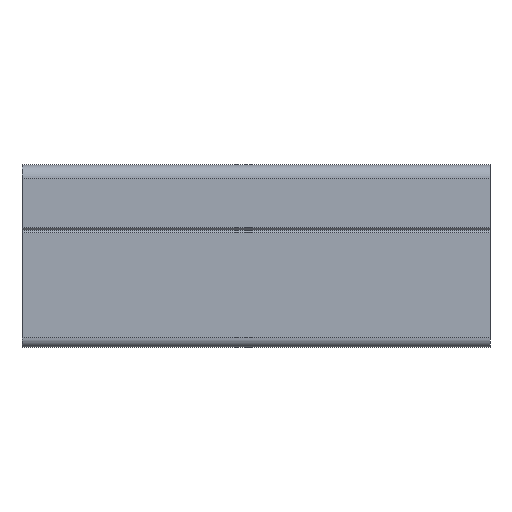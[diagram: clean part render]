
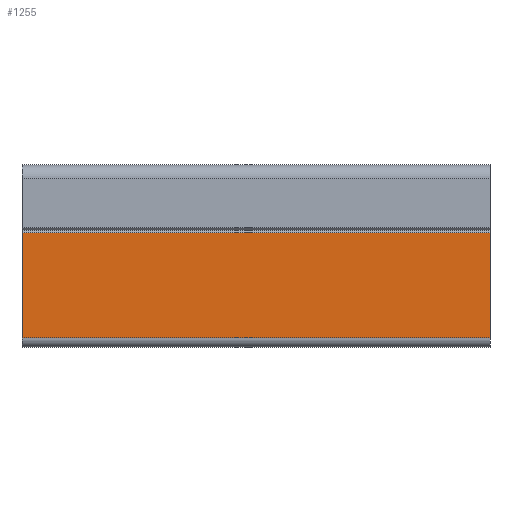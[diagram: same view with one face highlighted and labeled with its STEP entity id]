
A CAD part, front view. The second image highlights one B-rep face of the part: STEP entity #1255.
In plain terms, the highlighted planar face has unit normal (0, -1, 0).
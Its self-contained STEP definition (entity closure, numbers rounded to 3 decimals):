
#75 = VERTEX_POINT ( 'NONE', #1171 ) ;
#125 = EDGE_CURVE ( 'NONE', #1456, #75, #1300, .T. ) ;
#221 = CARTESIAN_POINT ( 'NONE',  ( 100., 0., 24.5 ) ) ;
#227 = PLANE ( 'NONE',  #1928 ) ;
#232 = CARTESIAN_POINT ( 'NONE',  ( 100., 0., 24.5 ) ) ;
#419 = DIRECTION ( 'NONE',  ( 0., 1., 0. ) ) ;
#427 = CARTESIAN_POINT ( 'NONE',  ( 0., 0., 24.5 ) ) ;
#448 = DIRECTION ( 'NONE',  ( -1., 0., 0. ) ) ;
#451 = LINE ( 'NONE', #1065, #790 ) ;
#557 = VERTEX_POINT ( 'NONE', #427 ) ;
#790 = VECTOR ( 'NONE', #2084, 1000. ) ;
#860 = EDGE_CURVE ( 'NONE', #2014, #557, #1252, .T. ) ;
#862 = ORIENTED_EDGE ( 'NONE', *, *, #1168, .T. ) ;
#921 = EDGE_LOOP ( 'NONE', ( #862, #944, #2114, #1896 ) ) ;
#944 = ORIENTED_EDGE ( 'NONE', *, *, #125, .F. ) ;
#1065 = CARTESIAN_POINT ( 'NONE',  ( 0., 0., 24.5 ) ) ;
#1115 = CARTESIAN_POINT ( 'NONE',  ( 100., 0., 2. ) ) ;
#1141 = FACE_OUTER_BOUND ( 'NONE', #921, .T. ) ;
#1168 = EDGE_CURVE ( 'NONE', #557, #75, #451, .T. ) ;
#1171 = CARTESIAN_POINT ( 'NONE',  ( 0., 0., 2. ) ) ;
#1188 = EDGE_CURVE ( 'NONE', #2014, #1456, #1245, .T. ) ;
#1189 = VECTOR ( 'NONE', #448, 1000. ) ;
#1196 = VECTOR ( 'NONE', #1646, 1000. ) ;
#1245 = LINE ( 'NONE', #221, #2040 ) ;
#1252 = LINE ( 'NONE', #1826, #1196 ) ;
#1255 = ADVANCED_FACE ( 'NONE', ( #1141 ), #227, .F. ) ;
#1300 = LINE ( 'NONE', #1115, #1189 ) ;
#1456 = VERTEX_POINT ( 'NONE', #1966 ) ;
#1583 = DIRECTION ( 'NONE',  ( 0., 0., -1. ) ) ;
#1596 = DIRECTION ( 'NONE',  ( 0., 0., 1. ) ) ;
#1646 = DIRECTION ( 'NONE',  ( -1., 0., 0. ) ) ;
#1826 = CARTESIAN_POINT ( 'NONE',  ( 100., 0., 24.5 ) ) ;
#1896 = ORIENTED_EDGE ( 'NONE', *, *, #860, .T. ) ;
#1928 = AXIS2_PLACEMENT_3D ( 'NONE', #232, #419, #1596 ) ;
#1966 = CARTESIAN_POINT ( 'NONE',  ( 100., 0., 2. ) ) ;
#2014 = VERTEX_POINT ( 'NONE', #2094 ) ;
#2040 = VECTOR ( 'NONE', #1583, 1000. ) ;
#2084 = DIRECTION ( 'NONE',  ( 0., 0., -1. ) ) ;
#2094 = CARTESIAN_POINT ( 'NONE',  ( 100., 0., 24.5 ) ) ;
#2114 = ORIENTED_EDGE ( 'NONE', *, *, #1188, .F. ) ;
